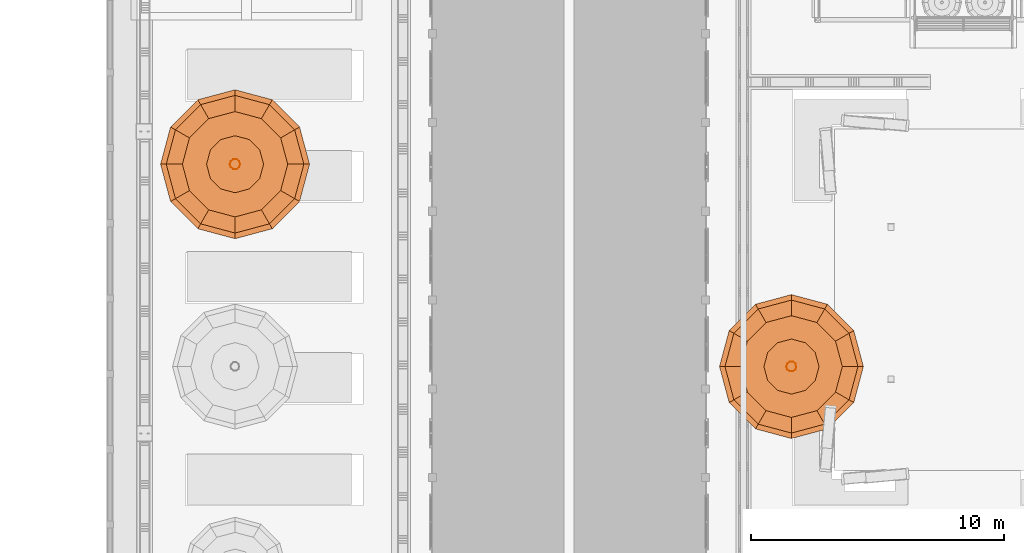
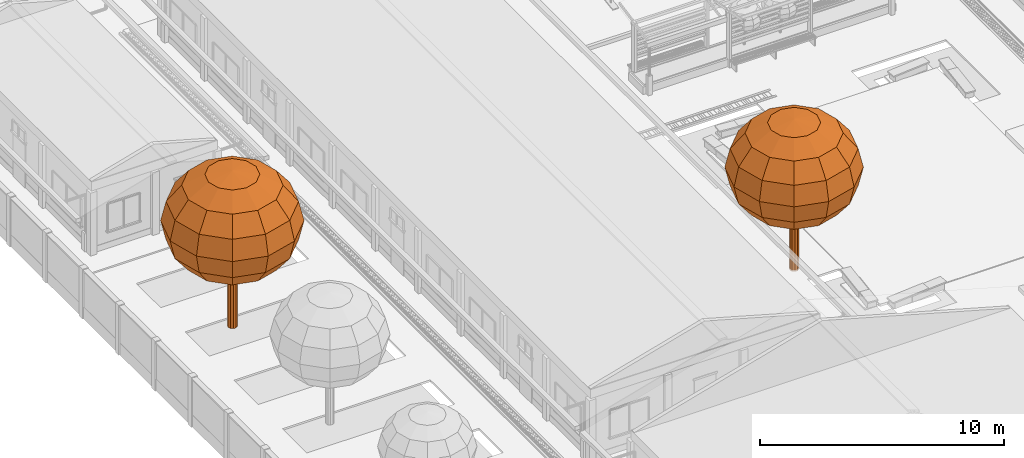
# One storey, part 152 of 166: 4 proxies.
"""IFC2X3 building model written with IfcOpenShell, lengths in metres."""

from ifc_helpers import new_model, si_unit, origin, origin_with_axes, place, context, subcontext, project, spatial, faceted_brep, element, save


model = new_model("IFC2X3")

# Units and contexts
model_context = context("Model", 3, precision=1e-05, world=origin_with_axes())
body_context = subcontext(model_context, "Body", "Model", "MODEL_VIEW")
ifc_project = project(units=[si_unit("LENGTHUNIT", "METRE"), si_unit("AREAUNIT", "SQUARE_METRE"), si_unit("VOLUMEUNIT", "CUBIC_METRE"), si_unit("PLANEANGLEUNIT", "RADIAN")], contexts=[model_context])

# Site, building, storey
site_placement = place(None, origin_with_axes())
site = spatial("IfcSite", under=ifc_project, at=site_placement, Name="Predio Los Mangos - Morales, San Martín", CompositionType="ELEMENT")
building_placement = place(site_placement, origin())
building = spatial("IfcBuilding", under=site, at=building_placement, Name="Hogar de Refugio Temporal", CompositionType="ELEMENT")
storey_placement = place(building_placement, origin())
storey = spatial("IfcBuildingStorey", under=building, at=storey_placement, Name="NIVEL 1 (NPT +0.00)", CompositionType="ELEMENT", Elevation=0.0)

# Proxies
proxy_1_placement = place(storey_placement, origin())
element("IfcBuildingElementProxy", 1, at=proxy_1_placement, inside=storey, Name="arbol_tronco", ObjectType="Árbol", context=body_context, shape_type="Brep", body=[
    faceted_brep([(6.2049, 68.0, 0.0), (6.1657, 68.1204, 0.0), (6.1657, 68.1204, 3.0731), (6.0633, 68.1948, 0.0), (6.0633, 68.1948, 3.0731), (5.9367, 68.1948, 0.0), (5.9367, 68.1948, 3.0731), (5.8343, 68.1204, 0.0), (5.8343, 68.1204, 3.0731), (5.7951, 68.0, 0.0), (5.7951, 68.0, 3.0731), (5.8343, 67.8796, 0.0), (5.8343, 67.8796, 3.0731), (5.9367, 67.8052, 0.0), (5.9367, 67.8052, 3.0731), (6.0633, 67.8052, 0.0), (6.0633, 67.8052, 3.0731), (6.1657, 67.8796, 0.0), (6.1657, 67.8796, 3.0731), (6.2049, 68.0, 3.0731)], [[[0, 1, 2]], [[1, 3, 4]], [[3, 5, 6]], [[5, 7, 8]], [[7, 9, 10]], [[9, 11, 12]], [[11, 13, 14]], [[13, 15, 16]], [[15, 17, 18]], [[17, 0, 19]], [[0, 2, 19]], [[1, 4, 2]], [[3, 6, 4]], [[5, 8, 6]], [[7, 10, 8]], [[9, 12, 10]], [[11, 14, 12]], [[13, 16, 14]], [[15, 18, 16]], [[17, 19, 18]]]),
])
proxy_2_placement = place(storey_placement, origin())
element("IfcBuildingElementProxy", 2, at=proxy_2_placement, inside=storey, Name="arbol_copa", ObjectType="Árbol", context=body_context, shape_type="Brep", body=[
    faceted_brep([(6.0, 68.0, 7.7853), (6.0, 68.0, 7.7853), (6.976, 68.5635, 7.5948), (7.127, 68.0, 7.5948), (6.0, 68.0, 7.7853), (6.5635, 68.976, 7.5948), (6.0, 68.0, 7.7853), (6.0, 69.127, 7.5948), (6.0, 68.0, 7.7853), (5.4365, 68.976, 7.5948), (6.0, 68.0, 7.7853), (5.024, 68.5635, 7.5948), (6.0, 68.0, 7.7853), (4.873, 68.0, 7.5948), (6.0, 68.0, 7.7853), (5.024, 67.4365, 7.5948), (6.0, 68.0, 7.7853), (5.4365, 67.024, 7.5948), (6.0, 68.0, 7.7853), (6.0, 66.873, 7.5948), (6.0, 68.0, 7.7853), (6.5635, 67.024, 7.5948), (6.0, 68.0, 7.7853), (6.976, 67.4365, 7.5948), (7.8035, 69.0412, 7.0521), (8.0825, 68.0, 7.0521), (7.0412, 69.8035, 7.0521), (6.0, 70.0825, 7.0521), (4.9588, 69.8035, 7.0521), (4.1965, 69.0412, 7.0521), (3.9175, 68.0, 7.0521), (4.1965, 66.9588, 7.0521), (4.9588, 66.1965, 7.0521), (6.0, 65.9175, 7.0521), (7.0412, 66.1965, 7.0521), (7.8035, 66.9588, 7.0521), (8.3564, 69.3605, 6.24), (8.7209, 68.0, 6.24), (7.3605, 70.3564, 6.24), (6.0, 70.7209, 6.24), (4.6395, 70.3564, 6.24), (3.6436, 69.3605, 6.24), (3.2791, 68.0, 6.24), (3.6436, 66.6395, 6.24), (4.6395, 65.6436, 6.24), (6.0, 65.2791, 6.24), (7.3605, 65.6436, 6.24), (8.3564, 66.6395, 6.24), (8.5505, 69.4725, 5.282), (8.9451, 68.0, 5.282), (7.4725, 70.5505, 5.282), (6.0, 70.9451, 5.282), (4.5275, 70.5505, 5.282), (3.4495, 69.4725, 5.282), (3.0549, 68.0, 5.282), (3.4495, 66.5275, 5.282), (4.5275, 65.4495, 5.282), (6.0, 65.0549, 5.282), (7.4725, 65.4495, 5.282), (8.5505, 66.5275, 5.282), (8.3564, 69.3605, 4.324), (8.7209, 68.0, 4.324), (7.3605, 70.3564, 4.324), (6.0, 70.7209, 4.324), (4.6395, 70.3564, 4.324), (3.6436, 69.3605, 4.324), (3.2791, 68.0, 4.324), (3.6436, 66.6395, 4.324), (4.6395, 65.6436, 4.324), (6.0, 65.2791, 4.324), (7.3605, 65.6436, 4.324), (8.3564, 66.6395, 4.324), (7.8035, 69.0412, 3.5118), (8.0825, 68.0, 3.5118), (7.0412, 69.8035, 3.5118), (6.0, 70.0825, 3.5118), (4.9588, 69.8035, 3.5118), (4.1965, 69.0412, 3.5118), (3.9175, 68.0, 3.5118), (4.1965, 66.9588, 3.5118), (4.9588, 66.1965, 3.5118), (6.0, 65.9175, 3.5118), (7.0412, 66.1965, 3.5118), (7.8035, 66.9588, 3.5118), (6.976, 68.5635, 2.9692), (7.127, 68.0, 2.9692), (6.5635, 68.976, 2.9692), (6.0, 69.127, 2.9692), (5.4365, 68.976, 2.9692), (5.024, 68.5635, 2.9692), (4.873, 68.0, 2.9692), (5.024, 67.4365, 2.9692), (5.4365, 67.024, 2.9692), (6.0, 66.873, 2.9692), (6.5635, 67.024, 2.9692), (6.976, 67.4365, 2.9692), (6.0, 68.0, 2.7786), (6.0, 68.0, 2.7786), (6.0, 68.0, 2.7786), (6.0, 68.0, 2.7786), (6.0, 68.0, 2.7786), (6.0, 68.0, 2.7786), (6.0, 68.0, 2.7786), (6.0, 68.0, 2.7786), (6.0, 68.0, 2.7786), (6.0, 68.0, 2.7786), (6.0, 68.0, 2.7786), (6.0, 68.0, 2.7786)], [[[0, 1, 2]], [[0, 2, 3]], [[1, 4, 5]], [[1, 5, 2]], [[4, 6, 7]], [[4, 7, 5]], [[6, 8, 9]], [[6, 9, 7]], [[8, 10, 11]], [[8, 11, 9]], [[10, 12, 13]], [[10, 13, 11]], [[12, 14, 15]], [[12, 15, 13]], [[14, 16, 17]], [[14, 17, 15]], [[16, 18, 19]], [[16, 19, 17]], [[18, 20, 21]], [[18, 21, 19]], [[20, 22, 23]], [[20, 23, 21]], [[22, 0, 3]], [[22, 3, 23]], [[3, 2, 24]], [[3, 24, 25]], [[2, 5, 26]], [[2, 26, 24]], [[5, 7, 27]], [[5, 27, 26]], [[7, 9, 28]], [[7, 28, 27]], [[9, 11, 29]], [[9, 29, 28]], [[11, 13, 30]], [[11, 30, 29]], [[13, 15, 31]], [[13, 31, 30]], [[15, 17, 32]], [[15, 32, 31]], [[17, 19, 33]], [[17, 33, 32]], [[19, 21, 34]], [[19, 34, 33]], [[21, 23, 35]], [[21, 35, 34]], [[23, 3, 25]], [[23, 25, 35]], [[25, 24, 36]], [[25, 36, 37]], [[24, 26, 38]], [[24, 38, 36]], [[26, 27, 39]], [[26, 39, 38]], [[27, 28, 40]], [[27, 40, 39]], [[28, 29, 41]], [[28, 41, 40]], [[29, 30, 42]], [[29, 42, 41]], [[30, 31, 43]], [[30, 43, 42]], [[31, 32, 44]], [[31, 44, 43]], [[32, 33, 45]], [[32, 45, 44]], [[33, 34, 46]], [[33, 46, 45]], [[34, 35, 47]], [[34, 47, 46]], [[35, 25, 37]], [[35, 37, 47]], [[37, 36, 48]], [[37, 48, 49]], [[36, 38, 50]], [[36, 50, 48]], [[38, 39, 51]], [[38, 51, 50]], [[39, 40, 52]], [[39, 52, 51]], [[40, 41, 53]], [[40, 53, 52]], [[41, 42, 54]], [[41, 54, 53]], [[42, 43, 55]], [[42, 55, 54]], [[43, 44, 56]], [[43, 56, 55]], [[44, 45, 57]], [[44, 57, 56]], [[45, 46, 58]], [[45, 58, 57]], [[46, 47, 59]], [[46, 59, 58]], [[47, 37, 49]], [[47, 49, 59]], [[49, 48, 60]], [[49, 60, 61]], [[48, 50, 62]], [[48, 62, 60]], [[50, 51, 63]], [[50, 63, 62]], [[51, 52, 64]], [[51, 64, 63]], [[52, 53, 65]], [[52, 65, 64]], [[53, 54, 66]], [[53, 66, 65]], [[54, 55, 67]], [[54, 67, 66]], [[55, 56, 68]], [[55, 68, 67]], [[56, 57, 69]], [[56, 69, 68]], [[57, 58, 70]], [[57, 70, 69]], [[58, 59, 71]], [[58, 71, 70]], [[59, 49, 61]], [[59, 61, 71]], [[61, 60, 72]], [[61, 72, 73]], [[60, 62, 74]], [[60, 74, 72]], [[62, 63, 75]], [[62, 75, 74]], [[63, 64, 76]], [[63, 76, 75]], [[64, 65, 77]], [[64, 77, 76]], [[65, 66, 78]], [[65, 78, 77]], [[66, 67, 79]], [[66, 79, 78]], [[67, 68, 80]], [[67, 80, 79]], [[68, 69, 81]], [[68, 81, 80]], [[69, 70, 82]], [[69, 82, 81]], [[70, 71, 83]], [[70, 83, 82]], [[71, 61, 73]], [[71, 73, 83]], [[73, 72, 84]], [[73, 84, 85]], [[72, 74, 86]], [[72, 86, 84]], [[74, 75, 87]], [[74, 87, 86]], [[75, 76, 88]], [[75, 88, 87]], [[76, 77, 89]], [[76, 89, 88]], [[77, 78, 90]], [[77, 90, 89]], [[78, 79, 91]], [[78, 91, 90]], [[79, 80, 92]], [[79, 92, 91]], [[80, 81, 93]], [[80, 93, 92]], [[81, 82, 94]], [[81, 94, 93]], [[82, 83, 95]], [[82, 95, 94]], [[83, 73, 85]], [[83, 85, 95]], [[85, 84, 96]], [[85, 96, 97]], [[84, 86, 98]], [[84, 98, 96]], [[86, 87, 99]], [[86, 99, 98]], [[87, 88, 100]], [[87, 100, 99]], [[88, 89, 101]], [[88, 101, 100]], [[89, 90, 102]], [[89, 102, 101]], [[90, 91, 103]], [[90, 103, 102]], [[91, 92, 104]], [[91, 104, 103]], [[92, 93, 105]], [[92, 105, 104]], [[93, 94, 106]], [[93, 106, 105]], [[94, 95, 107]], [[94, 107, 106]], [[95, 85, 97]], [[95, 97, 107]]]),
])
proxy_3_placement = place(storey_placement, origin())
element("IfcBuildingElementProxy", 3, at=proxy_3_placement, inside=storey, Name="arbol_tronco", ObjectType="Árbol", context=body_context, shape_type="Brep", body=[
    faceted_brep([(28.1979, 60.0, 0.0), (28.1601, 60.1163, 0.0), (28.1601, 60.1163, 2.9689), (28.0612, 60.1882, 0.0), (28.0612, 60.1882, 2.9689), (27.9388, 60.1882, 0.0), (27.9388, 60.1882, 2.9689), (27.8399, 60.1163, 0.0), (27.8399, 60.1163, 2.9689), (27.8021, 60.0, 0.0), (27.8021, 60.0, 2.9689), (27.8399, 59.8837, 0.0), (27.8399, 59.8837, 2.9689), (27.9388, 59.8118, 0.0), (27.9388, 59.8118, 2.9689), (28.0612, 59.8118, 0.0), (28.0612, 59.8118, 2.9689), (28.1601, 59.8837, 0.0), (28.1601, 59.8837, 2.9689), (28.1979, 60.0, 2.9689)], [[[0, 1, 2]], [[1, 3, 4]], [[3, 5, 6]], [[5, 7, 8]], [[7, 9, 10]], [[9, 11, 12]], [[11, 13, 14]], [[13, 15, 16]], [[15, 17, 18]], [[17, 0, 19]], [[0, 2, 19]], [[1, 4, 2]], [[3, 6, 4]], [[5, 8, 6]], [[7, 10, 8]], [[9, 12, 10]], [[11, 14, 12]], [[13, 16, 14]], [[15, 18, 16]], [[17, 19, 18]]]),
])
proxy_4_placement = place(storey_placement, origin())
element("IfcBuildingElementProxy", 4, at=proxy_4_placement, inside=storey, Name="arbol_copa", ObjectType="Árbol", context=body_context, shape_type="Brep", body=[
    faceted_brep([(28.0, 60.0, 7.5211), (28.0, 60.0, 7.5211), (28.9429, 60.5444, 7.337), (29.0888, 60.0, 7.337), (28.0, 60.0, 7.5211), (28.5444, 60.9429, 7.337), (28.0, 60.0, 7.5211), (28.0, 61.0888, 7.337), (28.0, 60.0, 7.5211), (27.4556, 60.9429, 7.337), (28.0, 60.0, 7.5211), (27.0571, 60.5444, 7.337), (28.0, 60.0, 7.5211), (26.9112, 60.0, 7.337), (28.0, 60.0, 7.5211), (27.0571, 59.4556, 7.337), (28.0, 60.0, 7.5211), (27.4556, 59.0571, 7.337), (28.0, 60.0, 7.5211), (28.0, 58.9112, 7.337), (28.0, 60.0, 7.5211), (28.5444, 59.0571, 7.337), (28.0, 60.0, 7.5211), (28.9429, 59.4556, 7.337), (29.7423, 61.0059, 6.8128), (30.0118, 60.0, 6.8128), (29.0059, 61.7423, 6.8128), (28.0, 62.0118, 6.8128), (26.9941, 61.7423, 6.8128), (26.2577, 61.0059, 6.8128), (25.9882, 60.0, 6.8128), (26.2577, 58.9941, 6.8128), (26.9941, 58.2577, 6.8128), (28.0, 57.9882, 6.8128), (29.0059, 58.2577, 6.8128), (29.7423, 58.9941, 6.8128), (30.2764, 61.3143, 6.0282), (30.6286, 60.0, 6.0282), (29.3143, 62.2764, 6.0282), (28.0, 62.6286, 6.0282), (26.6857, 62.2764, 6.0282), (25.7236, 61.3143, 6.0282), (25.3714, 60.0, 6.0282), (25.7236, 58.6857, 6.0282), (26.6857, 57.7236, 6.0282), (28.0, 57.3714, 6.0282), (29.3143, 57.7236, 6.0282), (30.2764, 58.6857, 6.0282), (30.464, 61.4226, 5.1027), (30.8452, 60.0, 5.1027), (29.4226, 62.464, 5.1027), (28.0, 62.8452, 5.1027), (26.5774, 62.464, 5.1027), (25.536, 61.4226, 5.1027), (25.1548, 60.0, 5.1027), (25.536, 58.5774, 5.1027), (26.5774, 57.536, 5.1027), (28.0, 57.1548, 5.1027), (29.4226, 57.536, 5.1027), (30.464, 58.5774, 5.1027), (30.2764, 61.3143, 4.1772), (30.6286, 60.0, 4.1772), (29.3143, 62.2764, 4.1772), (28.0, 62.6286, 4.1772), (26.6857, 62.2764, 4.1772), (25.7236, 61.3143, 4.1772), (25.3714, 60.0, 4.1772), (25.7236, 58.6857, 4.1772), (26.6857, 57.7236, 4.1772), (28.0, 57.3714, 4.1772), (29.3143, 57.7236, 4.1772), (30.2764, 58.6857, 4.1772), (29.7423, 61.0059, 3.3927), (30.0118, 60.0, 3.3927), (29.0059, 61.7423, 3.3927), (28.0, 62.0118, 3.3927), (26.9941, 61.7423, 3.3927), (26.2577, 61.0059, 3.3927), (25.9882, 60.0, 3.3927), (26.2577, 58.9941, 3.3927), (26.9941, 58.2577, 3.3927), (28.0, 57.9882, 3.3927), (29.0059, 58.2577, 3.3927), (29.7423, 58.9941, 3.3927), (28.9429, 60.5444, 2.8684), (29.0888, 60.0, 2.8684), (28.5444, 60.9429, 2.8684), (28.0, 61.0888, 2.8684), (27.4556, 60.9429, 2.8684), (27.0571, 60.5444, 2.8684), (26.9112, 60.0, 2.8684), (27.0571, 59.4556, 2.8684), (27.4556, 59.0571, 2.8684), (28.0, 58.9112, 2.8684), (28.5444, 59.0571, 2.8684), (28.9429, 59.4556, 2.8684), (28.0, 60.0, 2.6843), (28.0, 60.0, 2.6843), (28.0, 60.0, 2.6843), (28.0, 60.0, 2.6843), (28.0, 60.0, 2.6843), (28.0, 60.0, 2.6843), (28.0, 60.0, 2.6843), (28.0, 60.0, 2.6843), (28.0, 60.0, 2.6843), (28.0, 60.0, 2.6843), (28.0, 60.0, 2.6843), (28.0, 60.0, 2.6843)], [[[0, 1, 2]], [[0, 2, 3]], [[1, 4, 5]], [[1, 5, 2]], [[4, 6, 7]], [[4, 7, 5]], [[6, 8, 9]], [[6, 9, 7]], [[8, 10, 11]], [[8, 11, 9]], [[10, 12, 13]], [[10, 13, 11]], [[12, 14, 15]], [[12, 15, 13]], [[14, 16, 17]], [[14, 17, 15]], [[16, 18, 19]], [[16, 19, 17]], [[18, 20, 21]], [[18, 21, 19]], [[20, 22, 23]], [[20, 23, 21]], [[22, 0, 3]], [[22, 3, 23]], [[3, 2, 24]], [[3, 24, 25]], [[2, 5, 26]], [[2, 26, 24]], [[5, 7, 27]], [[5, 27, 26]], [[7, 9, 28]], [[7, 28, 27]], [[9, 11, 29]], [[9, 29, 28]], [[11, 13, 30]], [[11, 30, 29]], [[13, 15, 31]], [[13, 31, 30]], [[15, 17, 32]], [[15, 32, 31]], [[17, 19, 33]], [[17, 33, 32]], [[19, 21, 34]], [[19, 34, 33]], [[21, 23, 35]], [[21, 35, 34]], [[23, 3, 25]], [[23, 25, 35]], [[25, 24, 36]], [[25, 36, 37]], [[24, 26, 38]], [[24, 38, 36]], [[26, 27, 39]], [[26, 39, 38]], [[27, 28, 40]], [[27, 40, 39]], [[28, 29, 41]], [[28, 41, 40]], [[29, 30, 42]], [[29, 42, 41]], [[30, 31, 43]], [[30, 43, 42]], [[31, 32, 44]], [[31, 44, 43]], [[32, 33, 45]], [[32, 45, 44]], [[33, 34, 46]], [[33, 46, 45]], [[34, 35, 47]], [[34, 47, 46]], [[35, 25, 37]], [[35, 37, 47]], [[37, 36, 48]], [[37, 48, 49]], [[36, 38, 50]], [[36, 50, 48]], [[38, 39, 51]], [[38, 51, 50]], [[39, 40, 52]], [[39, 52, 51]], [[40, 41, 53]], [[40, 53, 52]], [[41, 42, 54]], [[41, 54, 53]], [[42, 43, 55]], [[42, 55, 54]], [[43, 44, 56]], [[43, 56, 55]], [[44, 45, 57]], [[44, 57, 56]], [[45, 46, 58]], [[45, 58, 57]], [[46, 47, 59]], [[46, 59, 58]], [[47, 37, 49]], [[47, 49, 59]], [[49, 48, 60]], [[49, 60, 61]], [[48, 50, 62]], [[48, 62, 60]], [[50, 51, 63]], [[50, 63, 62]], [[51, 52, 64]], [[51, 64, 63]], [[52, 53, 65]], [[52, 65, 64]], [[53, 54, 66]], [[53, 66, 65]], [[54, 55, 67]], [[54, 67, 66]], [[55, 56, 68]], [[55, 68, 67]], [[56, 57, 69]], [[56, 69, 68]], [[57, 58, 70]], [[57, 70, 69]], [[58, 59, 71]], [[58, 71, 70]], [[59, 49, 61]], [[59, 61, 71]], [[61, 60, 72]], [[61, 72, 73]], [[60, 62, 74]], [[60, 74, 72]], [[62, 63, 75]], [[62, 75, 74]], [[63, 64, 76]], [[63, 76, 75]], [[64, 65, 77]], [[64, 77, 76]], [[65, 66, 78]], [[65, 78, 77]], [[66, 67, 79]], [[66, 79, 78]], [[67, 68, 80]], [[67, 80, 79]], [[68, 69, 81]], [[68, 81, 80]], [[69, 70, 82]], [[69, 82, 81]], [[70, 71, 83]], [[70, 83, 82]], [[71, 61, 73]], [[71, 73, 83]], [[73, 72, 84]], [[73, 84, 85]], [[72, 74, 86]], [[72, 86, 84]], [[74, 75, 87]], [[74, 87, 86]], [[75, 76, 88]], [[75, 88, 87]], [[76, 77, 89]], [[76, 89, 88]], [[77, 78, 90]], [[77, 90, 89]], [[78, 79, 91]], [[78, 91, 90]], [[79, 80, 92]], [[79, 92, 91]], [[80, 81, 93]], [[80, 93, 92]], [[81, 82, 94]], [[81, 94, 93]], [[82, 83, 95]], [[82, 95, 94]], [[83, 73, 85]], [[83, 85, 95]], [[85, 84, 96]], [[85, 96, 97]], [[84, 86, 98]], [[84, 98, 96]], [[86, 87, 99]], [[86, 99, 98]], [[87, 88, 100]], [[87, 100, 99]], [[88, 89, 101]], [[88, 101, 100]], [[89, 90, 102]], [[89, 102, 101]], [[90, 91, 103]], [[90, 103, 102]], [[91, 92, 104]], [[91, 104, 103]], [[92, 93, 105]], [[92, 105, 104]], [[93, 94, 106]], [[93, 106, 105]], [[94, 95, 107]], [[94, 107, 106]], [[95, 85, 97]], [[95, 97, 107]]]),
])

save(model, "model.ifc")
